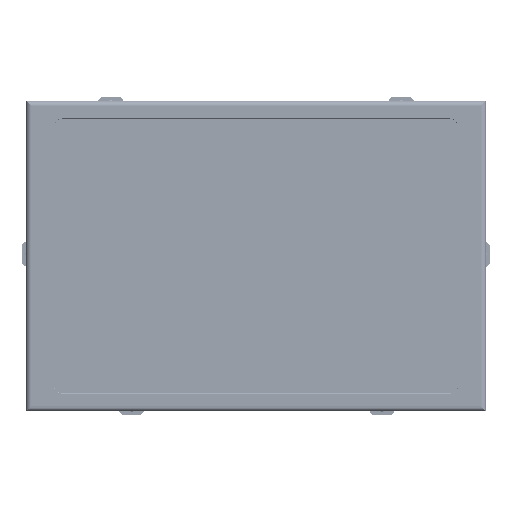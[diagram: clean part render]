
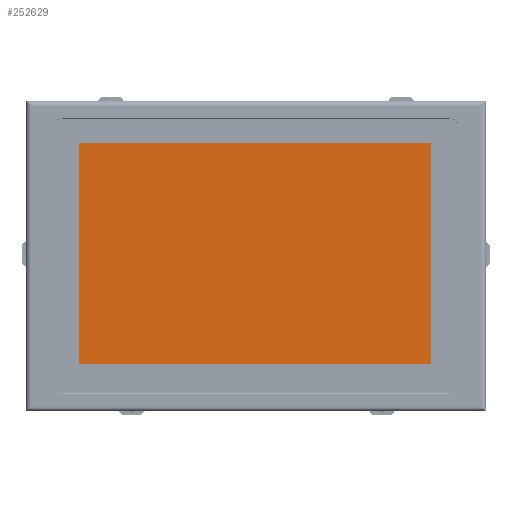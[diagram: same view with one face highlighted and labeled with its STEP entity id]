
A CAD part, top view. The second image highlights one B-rep face of the part: STEP entity #252629.
In plain terms, the highlighted planar face has unit normal (0, 0, 1).
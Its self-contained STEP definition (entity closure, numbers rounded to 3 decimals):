
#24652=PLANE('',#272242);
#37108=FACE_OUTER_BOUND('',#50397,.T.);
#50397=EDGE_LOOP('',(#234846,#234847,#234848,#234849));
#82792=LINE('',#464269,#107065);
#82793=LINE('',#464271,#107066);
#82794=LINE('',#464273,#107067);
#82795=LINE('',#464274,#107068);
#107065=VECTOR('',#335055,1000.);
#107066=VECTOR('',#335056,1000.);
#107067=VECTOR('',#335057,1000.);
#107068=VECTOR('',#335058,1000.);
#130196=VERTEX_POINT('',#464267);
#130197=VERTEX_POINT('',#464268);
#130198=VERTEX_POINT('',#464270);
#130199=VERTEX_POINT('',#464272);
#165213=EDGE_CURVE('',#130196,#130197,#82792,.T.);
#165214=EDGE_CURVE('',#130197,#130198,#82793,.T.);
#165215=EDGE_CURVE('',#130198,#130199,#82794,.T.);
#165216=EDGE_CURVE('',#130199,#130196,#82795,.T.);
#234846=ORIENTED_EDGE('',*,*,#165213,.T.);
#234847=ORIENTED_EDGE('',*,*,#165214,.T.);
#234848=ORIENTED_EDGE('',*,*,#165215,.T.);
#234849=ORIENTED_EDGE('',*,*,#165216,.T.);
#252629=ADVANCED_FACE('',(#37108),#24652,.F.);
#272242=AXIS2_PLACEMENT_3D('',#464266,#335053,#335054);
#335053=DIRECTION('center_axis',(0.,0.,
-1.));
#335054=DIRECTION('ref_axis',(-1.,0.,0.));
#335055=DIRECTION('',(0.,-1.,0.));
#335056=DIRECTION('',(1.,0.,0.));
#335057=DIRECTION('',(0.,1.,0.));
#335058=DIRECTION('',(-1.,0.,0.));
#464266=CARTESIAN_POINT('Origin',(-124.38,-84.365,6.1));
#464267=CARTESIAN_POINT('',(-109.35,69.865,6.1));
#464268=CARTESIAN_POINT('',(-109.35,-66.535,6.1));
#464269=CARTESIAN_POINT('',(-109.35,-66.535,6.1));
#464270=CARTESIAN_POINT('',(108.35,-66.535,6.1));
#464271=CARTESIAN_POINT('',(108.35,-66.535,6.1));
#464272=CARTESIAN_POINT('',(108.35,69.865,6.1));
#464273=CARTESIAN_POINT('',(108.35,69.865,6.1));
#464274=CARTESIAN_POINT('',(-109.35,69.865,6.1));
